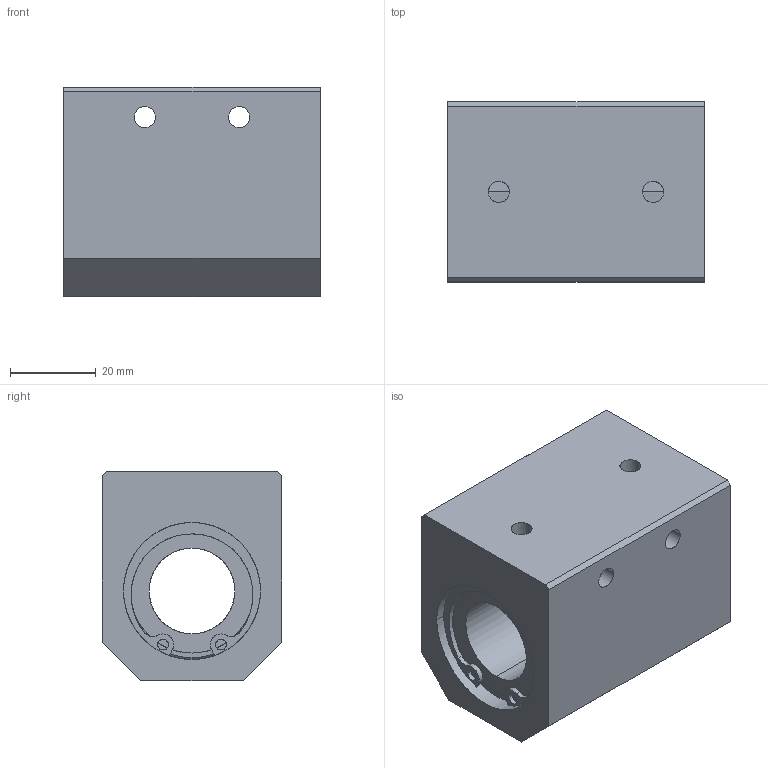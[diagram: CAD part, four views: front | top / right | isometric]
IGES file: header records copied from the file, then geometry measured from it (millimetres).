
Global section: file name: No Iges File Name specified; native system: AutoDesk Inventor R10; preprocessor: AutoDesk Inventor Iges Exporter R10; author: No Author specified; organization: No Organization specified; date: 20101216.151935; units: millimetre
Bounding box: 60 x 42 x 49 mm (x, y, z)
Surface area: 21057.2 mm2 (no closed solid volume)
Topology: 0 solids, 0 shells, 102 faces, 796 edges, 796 vertices
Faces by surface type: bspline 102
